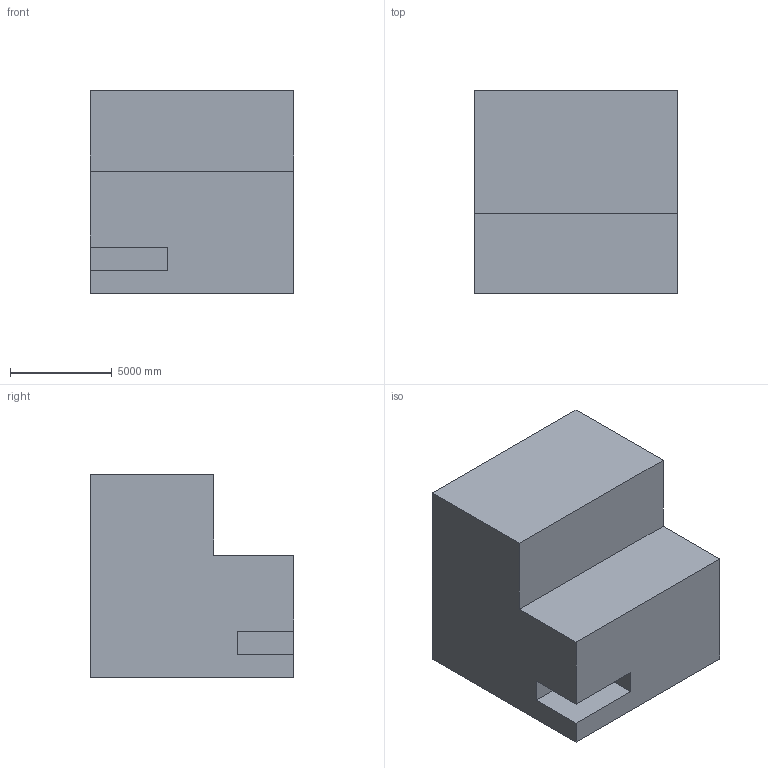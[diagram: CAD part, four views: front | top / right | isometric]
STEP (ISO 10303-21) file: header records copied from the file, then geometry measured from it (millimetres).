
FILE_DESCRIPTION (( 'STEP AP203' ), '1' );
FILE_NAME ('112.STEP', '2022-07-28T13:38:42', ( 'user' ), ( '' ), 'SwSTEP 2.0', 'SolidWorks 2021', '' );
FILE_SCHEMA (( 'CONFIG_CONTROL_DESIGN' ));
Length unit declared in the file: centimetre
Products named in the file (1): 112
Bounding box: 10000 x 10000 x 10000 mm (x, y, z)
Volume: 831180740299 mm3; surface area: 589717667.5 mm2
Topology: 1 solids, 1 shells, 12 faces, 30 edges, 20 vertices
Faces by surface type: plane 12
Entity records: 431 total; most frequent: CARTESIAN_POINT 63, ORIENTED_EDGE 60, DIRECTION 56, EDGE_CURVE 30, LINE 30, VECTOR 30, VERTEX_POINT 20, AXIS2_PLACEMENT_3D 13
